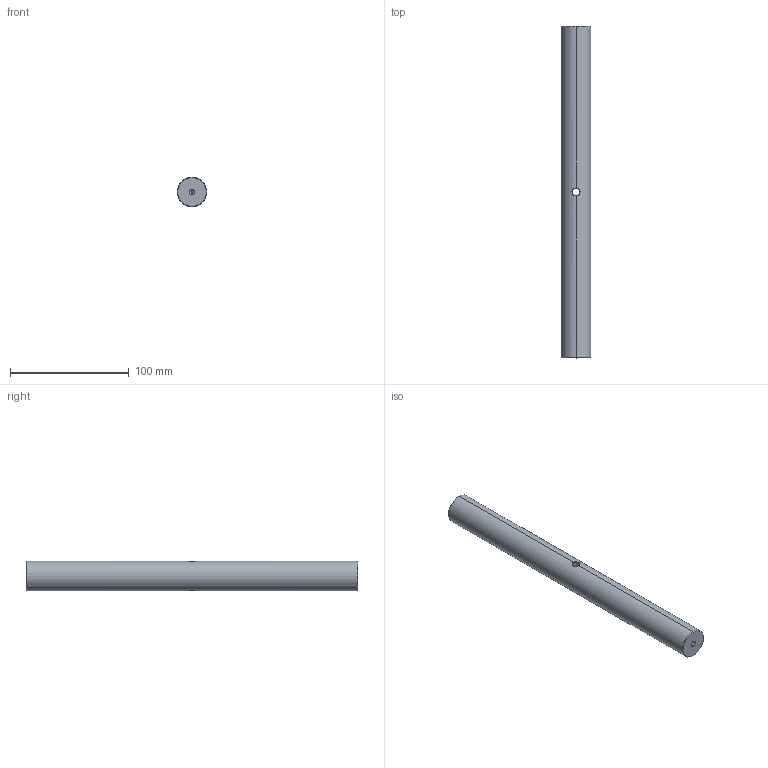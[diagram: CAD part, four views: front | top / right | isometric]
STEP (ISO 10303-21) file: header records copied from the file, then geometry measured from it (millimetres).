
FILE_DESCRIPTION (( 'STEP AP214' ), '1' );
FILE_NAME ('LO-NSB25-280B.STEP', '2026-05-08T03:20:10', ( '' ), ( '' ), 'SwSTEP 2.0', 'SolidWorks 2024', '' );
FILE_SCHEMA (( 'AUTOMOTIVE_DESIGN' ));
Length unit declared in the file: millimetre
Products named in the file (1): LO-NSB25-280B
Bounding box: 25 x 280 x 25 mm (x, y, z)
Volume: 136111.8 mm3; surface area: 23801.6 mm2
Topology: 1 solids, 1 shells, 22 faces, 56 edges, 32 vertices
Faces by surface type: cone 8, cylinder 8, bspline 4, plane 2
Entity records: 3636 total; most frequent: CARTESIAN_POINT 3136, ORIENTED_EDGE 104, DIRECTION 88, EDGE_CURVE 52, AXIS2_PLACEMENT_3D 35, VERTEX_POINT 32, EDGE_LOOP 24, FACE_OUTER_BOUND 22
